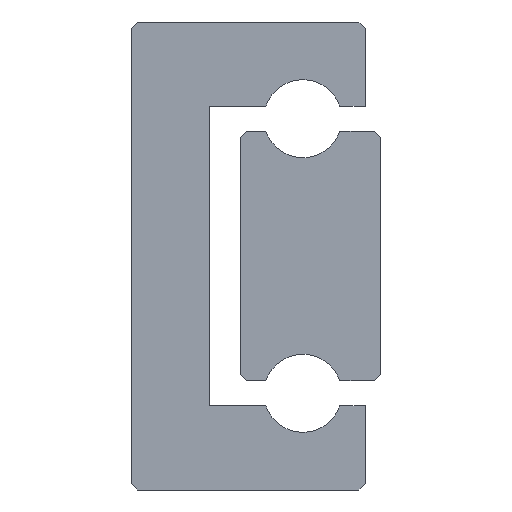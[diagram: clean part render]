
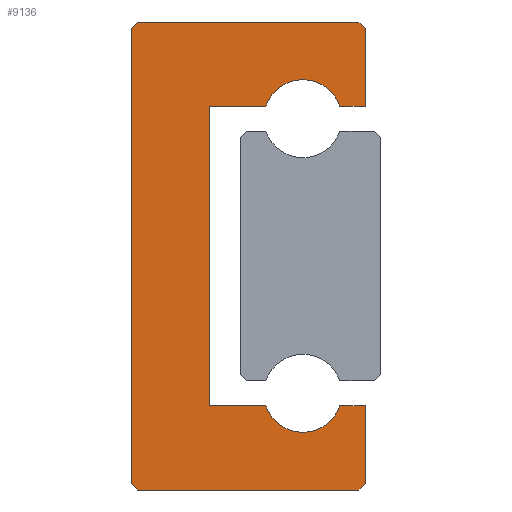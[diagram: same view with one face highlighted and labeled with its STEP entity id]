
A CAD part, left-side view. The second image highlights one B-rep face of the part: STEP entity #9136.
In plain terms, the highlighted planar face has unit normal (-1, 0, 0).
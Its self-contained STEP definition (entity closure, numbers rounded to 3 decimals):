
#65=PLANE('',#9946);
#271=LINE('',#13918,#1077);
#409=LINE('',#14691,#1215);
#412=LINE('',#14697,#1218);
#415=LINE('',#14703,#1221);
#419=LINE('',#14715,#1225);
#422=LINE('',#14729,#1228);
#425=LINE('',#14735,#1231);
#429=LINE('',#14747,#1235);
#432=LINE('',#14753,#1238);
#435=LINE('',#14759,#1241);
#438=LINE('',#14765,#1244);
#441=LINE('',#14771,#1247);
#444=LINE('',#14785,#1250);
#447=LINE('',#14791,#1253);
#1077=VECTOR('',#10863,1000.);
#1215=VECTOR('',#11499,1000.);
#1218=VECTOR('',#11504,1000.);
#1221=VECTOR('',#11509,1000.);
#1225=VECTOR('',#11521,1000.);
#1228=VECTOR('',#11534,1000.);
#1231=VECTOR('',#11539,1000.);
#1235=VECTOR('',#11551,1000.);
#1238=VECTOR('',#11556,1000.);
#1241=VECTOR('',#11561,1000.);
#1244=VECTOR('',#11566,1000.);
#1247=VECTOR('',#11571,1000.);
#1250=VECTOR('',#11584,1000.);
#1253=VECTOR('',#11589,1000.);
#2409=ORIENTED_EDGE('',*,*,#4731,.F.);
#2410=ORIENTED_EDGE('',*,*,#5167,.F.);
#2411=ORIENTED_EDGE('',*,*,#5164,.F.);
#2412=ORIENTED_EDGE('',*,*,#5157,.F.);
#2413=ORIENTED_EDGE('',*,*,#5154,.F.);
#2414=ORIENTED_EDGE('',*,*,#5151,.F.);
#2415=ORIENTED_EDGE('',*,*,#5148,.F.);
#2416=ORIENTED_EDGE('',*,*,#5145,.F.);
#2417=ORIENTED_EDGE('',*,*,#5142,.T.);
#2418=ORIENTED_EDGE('',*,*,#5139,.F.);
#2419=ORIENTED_EDGE('',*,*,#5136,.F.);
#2420=ORIENTED_EDGE('',*,*,#5129,.F.);
#2421=ORIENTED_EDGE('',*,*,#5126,.T.);
#2422=ORIENTED_EDGE('',*,*,#5123,.F.);
#2423=ORIENTED_EDGE('',*,*,#5120,.F.);
#2424=ORIENTED_EDGE('',*,*,#5117,.F.);
#4731=EDGE_CURVE('',#6137,#6138,#271,.T.);
#5117=EDGE_CURVE('',#6138,#6523,#409,.T.);
#5120=EDGE_CURVE('',#6523,#6525,#412,.T.);
#5123=EDGE_CURVE('',#6525,#6527,#415,.T.);
#5126=EDGE_CURVE('',#6529,#6527,#7317,.T.);
#5129=EDGE_CURVE('',#6529,#6531,#419,.T.);
#5136=EDGE_CURVE('',#6531,#6537,#422,.T.);
#5139=EDGE_CURVE('',#6537,#6539,#425,.T.);
#5142=EDGE_CURVE('',#6541,#6539,#7323,.T.);
#5145=EDGE_CURVE('',#6541,#6543,#429,.T.);
#5148=EDGE_CURVE('',#6543,#6545,#432,.T.);
#5151=EDGE_CURVE('',#6545,#6547,#435,.T.);
#5154=EDGE_CURVE('',#6547,#6549,#438,.T.);
#5157=EDGE_CURVE('',#6549,#6551,#441,.T.);
#5164=EDGE_CURVE('',#6551,#6557,#444,.T.);
#5167=EDGE_CURVE('',#6557,#6137,#447,.T.);
#6137=VERTEX_POINT('',#13919);
#6138=VERTEX_POINT('',#13920);
#6523=VERTEX_POINT('',#14692);
#6525=VERTEX_POINT('',#14698);
#6527=VERTEX_POINT('',#14704);
#6529=VERTEX_POINT('',#14710);
#6531=VERTEX_POINT('',#14716);
#6537=VERTEX_POINT('',#14730);
#6539=VERTEX_POINT('',#14736);
#6541=VERTEX_POINT('',#14742);
#6543=VERTEX_POINT('',#14748);
#6545=VERTEX_POINT('',#14754);
#6547=VERTEX_POINT('',#14760);
#6549=VERTEX_POINT('',#14766);
#6551=VERTEX_POINT('',#14772);
#6557=VERTEX_POINT('',#14786);
#7317=CIRCLE('',#9922,1.25);
#7323=CIRCLE('',#9932,1.25);
#7745=EDGE_LOOP('',(#2409,#2410,#2411,#2412,#2413,#2414,#2415,#2416,#2417,
#2418,#2419,#2420,#2421,#2422,#2423,#2424));
#8309=FACE_BOUND('',#7745,.T.);
#9136=ADVANCED_FACE('',(#8309),#65,.F.);
#9922=AXIS2_PLACEMENT_3D('',#14709,#11514,#11515);
#9932=AXIS2_PLACEMENT_3D('',#14741,#11544,#11545);
#9946=AXIS2_PLACEMENT_3D('',#14794,#11593,#11594);
#10863=DIRECTION('',(0.,-1.,0.));
#11499=DIRECTION('',(0.,-0.707,-0.707));
#11504=DIRECTION('',(0.,0.,-1.));
#11509=DIRECTION('',(0.,1.,0.));
#11514=DIRECTION('',(1.,0.,0.));
#11515=DIRECTION('',(0.,0.,-1.));
#11521=DIRECTION('',(0.,1.,0.));
#11534=DIRECTION('',(0.,0.,-1.));
#11539=DIRECTION('',(0.,-1.,0.));
#11544=DIRECTION('',(1.,0.,0.));
#11545=DIRECTION('',(0.,0.,-1.));
#11551=DIRECTION('',(0.,-1.,0.));
#11556=DIRECTION('',(0.,0.,-1.));
#11561=DIRECTION('',(0.,0.707,-0.707));
#11566=DIRECTION('',(0.,1.,0.));
#11571=DIRECTION('',(0.,0.707,0.707));
#11584=DIRECTION('',(0.,0.,1.));
#11589=DIRECTION('',(0.,-0.707,0.707));
#11593=DIRECTION('',(1.,0.,0.));
#11594=DIRECTION('',(0.,0.,-1.));
#13918=CARTESIAN_POINT('',(-25.,7.3,7.5));
#13919=CARTESIAN_POINT('',(-25.,7.3,7.5));
#13920=CARTESIAN_POINT('',(-25.,0.2,7.5));
#14691=CARTESIAN_POINT('',(-25.,0.2,7.5));
#14692=CARTESIAN_POINT('',(-25.,0.,7.3));
#14697=CARTESIAN_POINT('',(-25.,0.,7.3));
#14698=CARTESIAN_POINT('',(-25.,0.,4.8));
#14703=CARTESIAN_POINT('',(-25.,0.,4.8));
#14704=CARTESIAN_POINT('',(-25.,0.816,4.8));
#14709=CARTESIAN_POINT('',(-25.,2.,4.4));
#14710=CARTESIAN_POINT('',(-25.,3.184,4.8));
#14715=CARTESIAN_POINT('',(-25.,3.184,4.8));
#14716=CARTESIAN_POINT('',(-25.,5.,4.8));
#14729=CARTESIAN_POINT('',(-25.,5.,4.8));
#14730=CARTESIAN_POINT('',(-25.,5.,-4.8));
#14735=CARTESIAN_POINT('',(-25.,5.,-4.8));
#14736=CARTESIAN_POINT('',(-25.,3.184,-4.8));
#14741=CARTESIAN_POINT('',(-25.,2.,-4.4));
#14742=CARTESIAN_POINT('',(-25.,0.816,-4.8));
#14747=CARTESIAN_POINT('',(-25.,0.816,-4.8));
#14748=CARTESIAN_POINT('',(-25.,0.,-4.8));
#14753=CARTESIAN_POINT('',(-25.,0.,-4.8));
#14754=CARTESIAN_POINT('',(-25.,0.,-7.3));
#14759=CARTESIAN_POINT('',(-25.,0.,-7.3));
#14760=CARTESIAN_POINT('',(-25.,0.2,-7.5));
#14765=CARTESIAN_POINT('',(-25.,0.2,-7.5));
#14766=CARTESIAN_POINT('',(-25.,7.3,-7.5));
#14771=CARTESIAN_POINT('',(-25.,7.3,-7.5));
#14772=CARTESIAN_POINT('',(-25.,7.5,-7.3));
#14785=CARTESIAN_POINT('',(-25.,7.5,-7.3));
#14786=CARTESIAN_POINT('',(-25.,7.5,7.3));
#14791=CARTESIAN_POINT('',(-25.,7.5,7.3));
#14794=CARTESIAN_POINT('',(-25.,2.,4.4));
